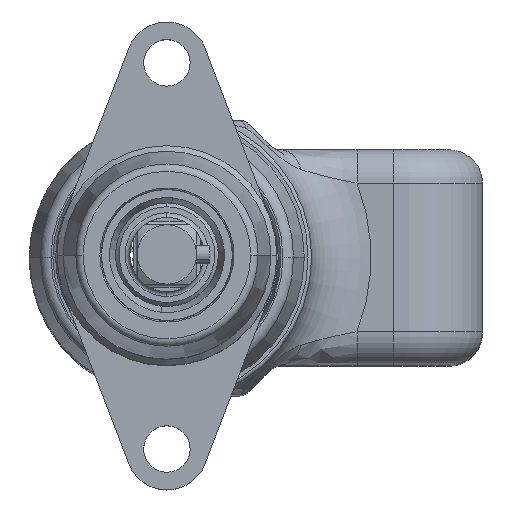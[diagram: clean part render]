
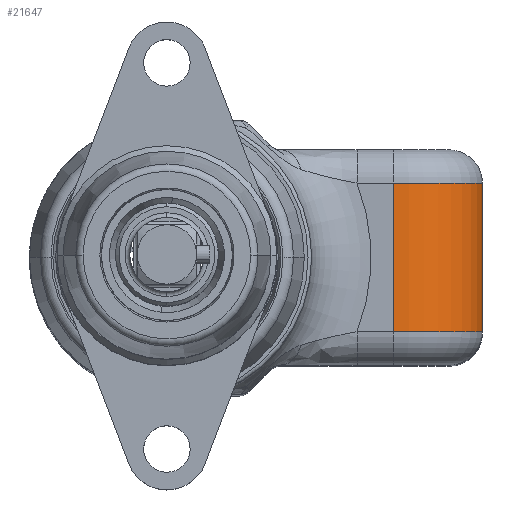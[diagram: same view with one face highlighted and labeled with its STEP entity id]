
A CAD part, top view. The second image highlights one B-rep face of the part: STEP entity #21647.
In plain terms, the highlighted cylindrical face has radius 19.05 mm (diameter 38.1 mm), a partial arc.
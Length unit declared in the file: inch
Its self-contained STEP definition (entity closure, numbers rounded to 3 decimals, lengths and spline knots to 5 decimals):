
#476 = CIRCLE ( 'NONE', #18473, 0.75 ) ;
#485 = LINE ( 'NONE', #2113, #488 ) ;
#488 = VECTOR ( 'NONE', #2114, 39.37008 ) ;
#489 = LINE ( 'NONE', #2117, #492 ) ;
#491 = CIRCLE ( 'NONE', #18484, 0.75 ) ;
#492 = VECTOR ( 'NONE', #2118, 39.37008 ) ;
#2096 = CARTESIAN_POINT ( 'NONE',  ( 1.906, 0.625, 7.10174 ) ) ;
#2097 = DIRECTION ( 'NONE',  ( 0., -1., 0. ) ) ;
#2098 = DIRECTION ( 'NONE',  ( 0., 0., 1. ) ) ;
#2113 = CARTESIAN_POINT ( 'NONE',  ( 2.656, -0.906, 7.10174 ) ) ;
#2114 = DIRECTION ( 'NONE',  ( 0., -1., 0. ) ) ;
#2117 = CARTESIAN_POINT ( 'NONE',  ( 1.906, -1.031, 7.85174 ) ) ;
#2118 = DIRECTION ( 'NONE',  ( 0., 1., 0. ) ) ;
#2121 = CARTESIAN_POINT ( 'NONE',  ( 1.906, -0.625, 7.10174 ) ) ;
#2122 = DIRECTION ( 'NONE',  ( 0., 1., 0. ) ) ;
#2123 = DIRECTION ( 'NONE',  ( 0., 0., -1. ) ) ;
#2302 = ORIENTED_EDGE ( 'NONE', *, *, #26757, .F. ) ;
#2377 = ORIENTED_EDGE ( 'NONE', *, *, #26759, .F. ) ;
#2398 = ORIENTED_EDGE ( 'NONE', *, *, #26749, .T. ) ;
#2468 = ORIENTED_EDGE ( 'NONE', *, *, #26760, .T. ) ;
#12022 = AXIS2_PLACEMENT_3D ( 'NONE', #29452, #29454, #29456 ) ;
#13988 = EDGE_LOOP ( 'NONE', ( #2302, #2398, #2377, #2468 ) ) ;
#16401 = CARTESIAN_POINT ( 'NONE',  ( 2.656, -0.625, 7.10174 ) ) ;
#16566 = CARTESIAN_POINT ( 'NONE',  ( 1.906, -0.625, 7.85174 ) ) ;
#16574 = CARTESIAN_POINT ( 'NONE',  ( 1.906, 0.625, 7.85174 ) ) ;
#16581 = CARTESIAN_POINT ( 'NONE',  ( 2.656, 0.625, 7.10174 ) ) ;
#18473 = AXIS2_PLACEMENT_3D ( 'NONE', #2096, #2097, #2098 ) ;
#18484 = AXIS2_PLACEMENT_3D ( 'NONE', #2121, #2122, #2123 ) ;
#21647 = ADVANCED_FACE ( 'NONE', ( #24915 ), #24929, .T. ) ;
#24915 = FACE_OUTER_BOUND ( 'NONE', #13988, .T. ) ;
#24929 = CYLINDRICAL_SURFACE ( 'NONE', #12022, 0.75 ) ;
#26749 = EDGE_CURVE ( 'NONE', #30074, #30067, #476, .T. ) ;
#26757 = EDGE_CURVE ( 'NONE', #30074, #29894, #485, .T. ) ;
#26759 = EDGE_CURVE ( 'NONE', #30059, #30067, #489, .T. ) ;
#26760 = EDGE_CURVE ( 'NONE', #30059, #29894, #491, .T. ) ;
#29452 = CARTESIAN_POINT ( 'NONE',  ( 1.906, -0.906, 7.10174 ) ) ;
#29454 = DIRECTION ( 'NONE',  ( 0., -1., 0. ) ) ;
#29456 = DIRECTION ( 'NONE',  ( 0., 0., 1. ) ) ;
#29894 = VERTEX_POINT ( 'NONE', #16401 ) ;
#30059 = VERTEX_POINT ( 'NONE', #16566 ) ;
#30067 = VERTEX_POINT ( 'NONE', #16574 ) ;
#30074 = VERTEX_POINT ( 'NONE', #16581 ) ;
